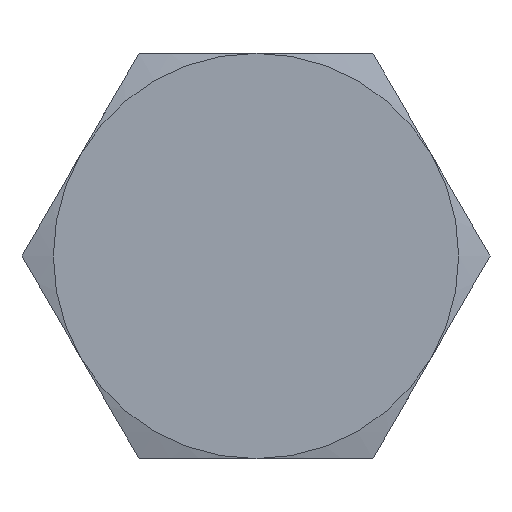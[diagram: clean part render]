
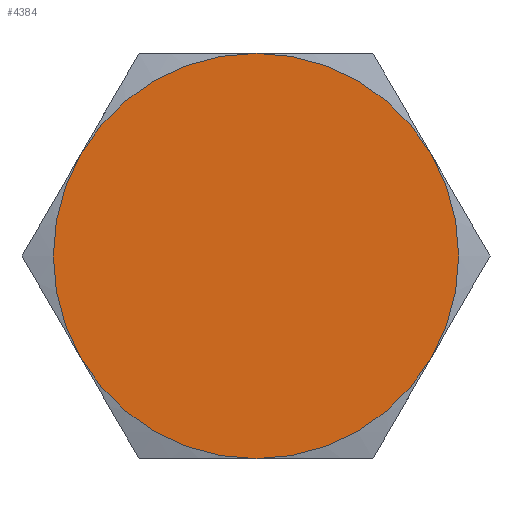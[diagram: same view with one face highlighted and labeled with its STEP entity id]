
A CAD part, left-side view. The second image highlights one B-rep face of the part: STEP entity #4384.
In plain terms, the highlighted planar face has unit normal (-1, 0, 0).
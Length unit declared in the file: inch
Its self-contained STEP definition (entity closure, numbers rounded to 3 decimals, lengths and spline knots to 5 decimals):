
#3994=CARTESIAN_POINT('',(-0.5,-0.70365,0.40625));
#3995=VERTEX_POINT('',#3994);
#4009=CARTESIAN_POINT('',(-0.5,0.,0.8125));
#4010=VERTEX_POINT('',#4009);
#4024=CARTESIAN_POINT('',(-0.5,0.,0.));
#4025=DIRECTION('',(-1.0,0.0,0.0));
#4026=DIRECTION('',(0.0,0.0,-1.0));
#4027=AXIS2_PLACEMENT_3D('',#4024,#4025,#4026);
#4028=CIRCLE('',#4027,0.8125);
#4029=EDGE_CURVE('',#3995,#4010,#4028,.T.);
#4041=CARTESIAN_POINT('',(-0.5,-0.70365,-0.40625));
#4042=VERTEX_POINT('',#4041);
#4069=CARTESIAN_POINT('',(-0.5,0.,0.));
#4070=DIRECTION('',(-1.0,0.0,0.0));
#4071=DIRECTION('',(0.0,0.0,-1.0));
#4072=AXIS2_PLACEMENT_3D('',#4069,#4070,#4071);
#4073=CIRCLE('',#4072,0.8125);
#4074=EDGE_CURVE('',#4042,#3995,#4073,.T.);
#4086=CARTESIAN_POINT('',(-0.5,0.,-0.8125));
#4087=VERTEX_POINT('',#4086);
#4114=CARTESIAN_POINT('',(-0.5,0.,0.));
#4115=DIRECTION('',(-1.0,0.0,0.0));
#4116=DIRECTION('',(0.0,0.0,-1.0));
#4117=AXIS2_PLACEMENT_3D('',#4114,#4115,#4116);
#4118=CIRCLE('',#4117,0.8125);
#4119=EDGE_CURVE('',#4087,#4042,#4118,.T.);
#4144=CARTESIAN_POINT('',(-0.5,0.70365,-0.40625));
#4145=VERTEX_POINT('',#4144);
#4146=CARTESIAN_POINT('',(-0.5,0.,0.));
#4147=DIRECTION('',(-1.0,0.0,0.0));
#4148=DIRECTION('',(0.0,0.0,-1.0));
#4149=AXIS2_PLACEMENT_3D('',#4146,#4147,#4148);
#4150=CIRCLE('',#4149,0.8125);
#4151=EDGE_CURVE('',#4145,#4087,#4150,.T.);
#4189=CARTESIAN_POINT('',(-0.5,0.70365,0.40625));
#4190=VERTEX_POINT('',#4189);
#4191=CARTESIAN_POINT('',(-0.5,0.,0.));
#4192=DIRECTION('',(-1.0,0.0,0.0));
#4193=DIRECTION('',(0.0,0.0,-1.0));
#4194=AXIS2_PLACEMENT_3D('',#4191,#4192,#4193);
#4195=CIRCLE('',#4194,0.8125);
#4196=EDGE_CURVE('',#4190,#4145,#4195,.T.);
#4234=CARTESIAN_POINT('',(-0.5,0.,0.));
#4235=DIRECTION('',(-1.0,0.0,0.0));
#4236=DIRECTION('',(0.0,0.0,-1.0));
#4237=AXIS2_PLACEMENT_3D('',#4234,#4235,#4236);
#4238=CIRCLE('',#4237,0.8125);
#4239=EDGE_CURVE('',#4010,#4190,#4238,.T.);
#4371=CARTESIAN_POINT('',(-0.5,0.,0.));
#4372=DIRECTION('',(1.0,0.0,0.0));
#4373=DIRECTION('',(0.0,0.0,-1.0));
#4374=AXIS2_PLACEMENT_3D('',#4371,#4372,#4373);
#4375=PLANE('',#4374);
#4376=ORIENTED_EDGE('',*,*,#4239,.T.);
#4377=ORIENTED_EDGE('',*,*,#4196,.T.);
#4378=ORIENTED_EDGE('',*,*,#4151,.T.);
#4379=ORIENTED_EDGE('',*,*,#4119,.T.);
#4380=ORIENTED_EDGE('',*,*,#4074,.T.);
#4381=ORIENTED_EDGE('',*,*,#4029,.T.);
#4382=EDGE_LOOP('',(#4376,#4377,#4378,#4379,#4380,#4381));
#4383=FACE_OUTER_BOUND('',#4382,.T.);
#4384=ADVANCED_FACE('',(#4383),#4375,.F.);
